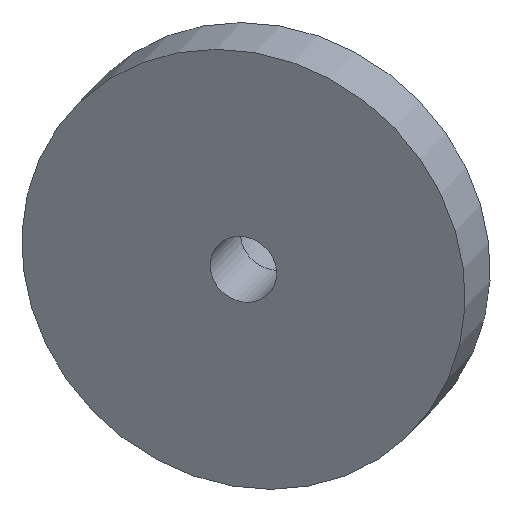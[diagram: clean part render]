
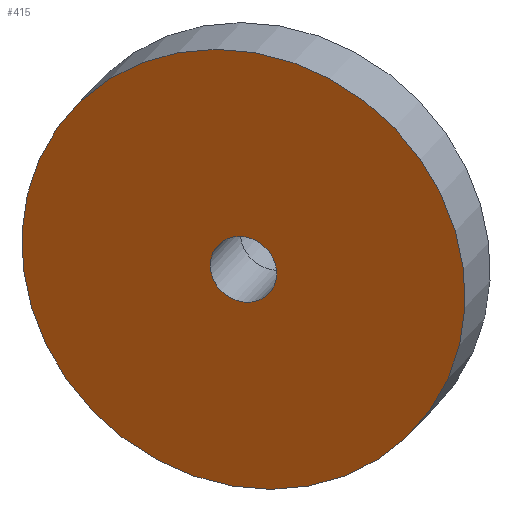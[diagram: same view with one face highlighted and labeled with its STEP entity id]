
A CAD part, front view. The second image highlights one B-rep face of the part: STEP entity #415.
In plain terms, the highlighted planar face has unit normal (-0.321, -0.883, -0.342).
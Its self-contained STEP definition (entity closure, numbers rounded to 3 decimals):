
#216=CARTESIAN_POINT('',(92.708,110.269,8.078));
#217=VERTEX_POINT('',#216);
#218=CARTESIAN_POINT('',(93.761,113.162,-0.379));
#219=DIRECTION('',(0.321,0.883,0.342));
#220=DIRECTION('',(-0.117,-0.321,0.94));
#221=AXIS2_PLACEMENT_3D('',#218,#219,#220);
#222=CIRCLE('',#221,9.);
#223=EDGE_CURVE('',#217,#217,#222,.T.);
#244=CARTESIAN_POINT('',(100.779,132.445,-56.761));
#245=VERTEX_POINT('',#244);
#246=CARTESIAN_POINT('',(93.761,113.162,-0.379));
#247=DIRECTION('',(0.321,0.883,0.342));
#248=DIRECTION('',(0.117,0.321,-0.94));
#249=AXIS2_PLACEMENT_3D('',#246,#247,#248);
#250=CIRCLE('',#249,60.);
#251=EDGE_CURVE('',#245,#245,#250,.T.);
#404=CARTESIAN_POINT('',(163.501,111.8,-62.399));
#405=DIRECTION('',(-0.321,-0.883,-0.342));
#406=DIRECTION('',(-0.117,-0.321,0.94));
#407=AXIS2_PLACEMENT_3D('',#404,#405,#406);
#408=PLANE('',#407);
#409=ORIENTED_EDGE('',*,*,#251,.F.);
#410=EDGE_LOOP('',(#409));
#411=FACE_OUTER_BOUND('',#410,.T.);
#412=ORIENTED_EDGE('',*,*,#223,.T.);
#413=EDGE_LOOP('',(#412));
#414=FACE_BOUND('',#413,.T.);
#415=ADVANCED_FACE('',(#411,#414),#408,.T.);
